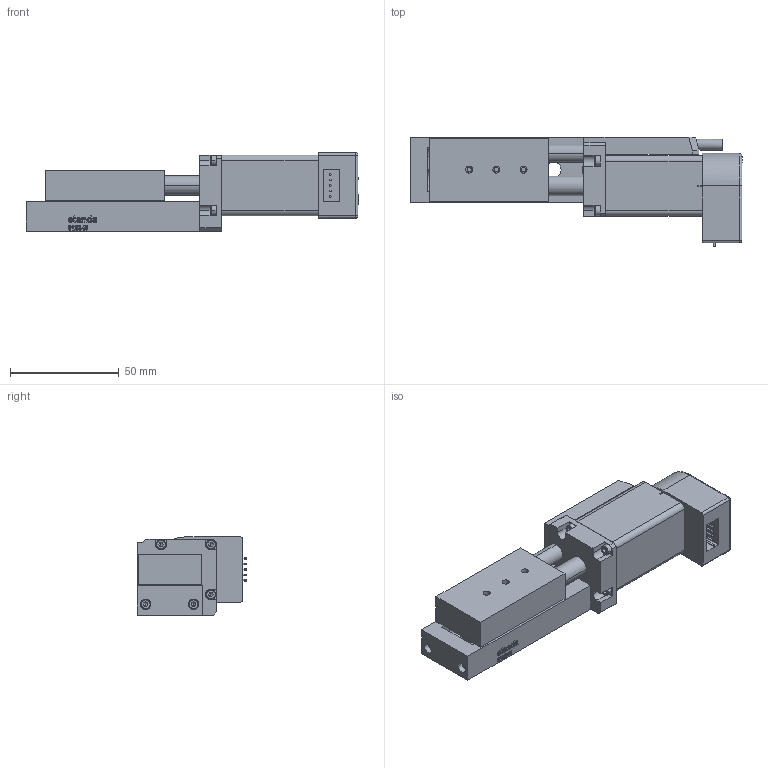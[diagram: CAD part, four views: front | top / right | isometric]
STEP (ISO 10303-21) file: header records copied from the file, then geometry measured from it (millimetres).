
FILE_DESCRIPTION (( 'STEP AP203' ), '1' );
FILE_NAME ('8MT173-30MEn1.STEP', '2012-01-13T08:46:01', ( 'Darius' ), ( '' ), 'SwSTEP 2.0', 'SolidWorks 2003240', '' );
FILE_SCHEMA (( 'CONFIG_CONTROL_DESIGN' ));
Length unit declared in the file: millimetre
Products named in the file (1): 8MT173-30MEn1
Bounding box: 152.8 x 50.59 x 36 mm (x, y, z)
Volume: 123434.5 mm3; surface area: 36433.4 mm2
Topology: 1 solids, 13 shells, 789 faces, 2027 edges, 1320 vertices
Faces by surface type: plane 335, bspline 206, cylinder 200, cone 48
Entity records: 31111 total; most frequent: CARTESIAN_POINT 12916, ORIENTED_EDGE 3990, DIRECTION 3280, EDGE_CURVE 1995, VERTEX_POINT 1320, AXIS2_PLACEMENT_3D 1147, VECTOR 986, LINE 986
